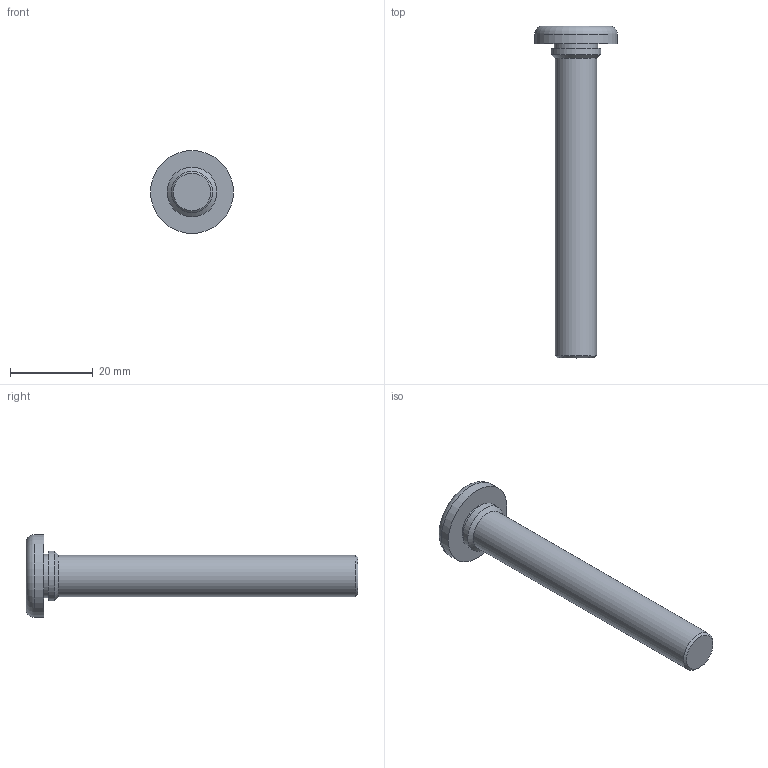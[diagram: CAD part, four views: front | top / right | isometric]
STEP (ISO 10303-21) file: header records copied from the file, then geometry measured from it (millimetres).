
FILE_DESCRIPTION(/* description */ (''),/* implementation_level */ '2;1');
FILE_NAME(/* name */ 'C:\Users\keval.kumar\Desktop\Fastit\Press Screw\M10\Press Screw_M10 x80.stp',/* time_stamp */ '2024-03-12T17:51:46+05:00',/* author */ ('keval.kumar'),/* organization */ (''),/* preprocessor_version */ 'ST-DEVELOPER v18.1',/* originating_system */ 'Autodesk Inventor 2022',/* authorisation */ '');
FILE_SCHEMA (('AUTOMOTIVE_DESIGN { 1 0 10303 214 3 1 1 }'));
Length unit declared in the file: millimetre
Products named in the file (1): Press Screw_M10 x80
Bounding box: 20 x 80 x 20 mm (x, y, z)
Volume: 7320.5 mm3; surface area: 3260.7 mm2
Topology: 1 solids, 1 shells, 11 faces, 19 edges, 12 vertices
Faces by surface type: cylinder 4, plane 4, cone 2, torus 1
Full cylindrical faces by diameter (mm): 10 x1, 10.5 x1, 12 x1, 20 x1
Entity records: 313 total; most frequent: DIRECTION 56, CARTESIAN_POINT 43, ORIENTED_EDGE 38, AXIS2_PLACEMENT_3D 25, EDGE_CURVE 19, EDGE_LOOP 13, CIRCLE 13, VERTEX_POINT 12
